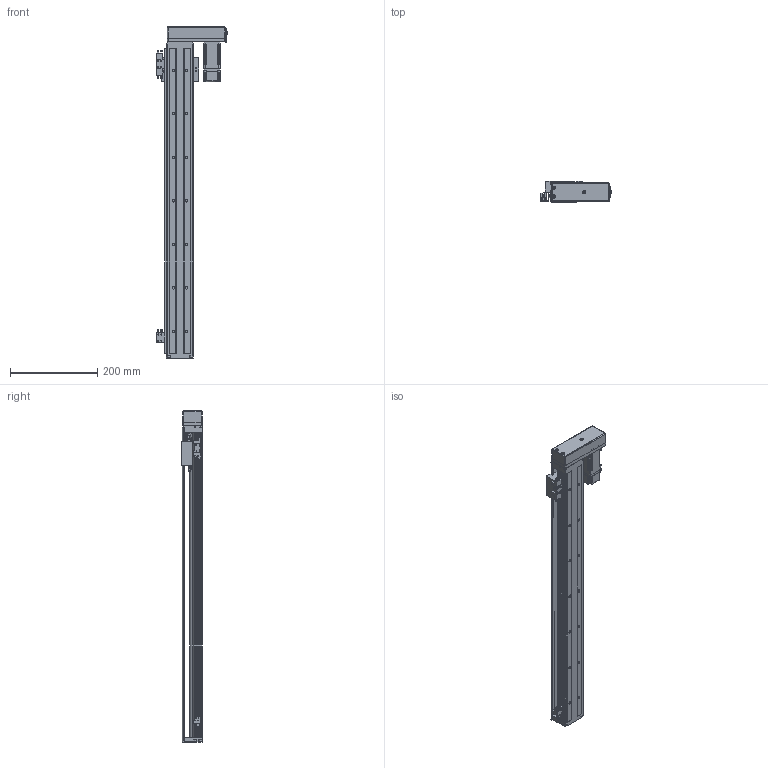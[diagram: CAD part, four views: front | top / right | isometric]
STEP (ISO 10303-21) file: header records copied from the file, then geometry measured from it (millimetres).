
FILE_DESCRIPTION (( 'STEP AP214' ), '1' );
FILE_NAME ('SFKK60-700A1-HL0C.STEP', '2023-02-17T02:06:09', ( '微软用户' ), ( '微软中国' ), 'SwSTEP 2.0', 'SolidWorks 2018', '' );
FILE_SCHEMA (( 'AUTOMOTIVE_DESIGN' ));
Length unit declared in the file: millimetre
Products named in the file (12): SFKK60-LR 憤癹寢耋_700; 带盖挡光片：KK-60-S2-D1; SFKK60-H0-P10侂狟100W耜蚾; SFKK-60-CU_700; 蚐郲; SFKK60-A1-C; SFKK60-700A1-HL0C; 极限轨道与开关固定座组合_700; 开关固定座：KK-674S2-F; hexagon socket countersunk head screws gb_GB_FASTENER_SCREWS_HSCHS M3X8-N; SX674嫖萇羲壽; SFKK60-H0_700
Assembly tree (17 placements, depth 3):
  SFKK60-700A1-HL0C
    SFKK60-H0_700
    SFKK60-A1-C
    蚐郲
    SFKK-60-CU_700
    hexagon socket countersunk head screws gb_GB_FASTENER_SCREWS_HSCHS M3X8-N  x4
    带盖挡光片：KK-60-S2-D1
    极限轨道与开关固定座组合_700
      SFKK60-LR 憤癹寢耋_700
      开关固定座：KK-674S2-F  x2
    SX674嫖萇羲壽  x3
    SFKK60-H0-P10侂狟100W耜蚾
Bounding box: 162.2 x 48 x 762.7 mm (x, y, z)
Volume: 825365.5 mm3; surface area: 453480 mm2
Topology: 40 solids, 69 shells, 4353 faces, 10917 edges, 6744 vertices
Faces by surface type: cylinder 1708, plane 1510, cone 927, torus 91, bspline 91, sphere 26
Entity records: 171716 total; most frequent: CARTESIAN_POINT 30669, DIRECTION 21729, ORIENTED_EDGE 20502, EDGE_CURVE 10313, AXIS2_PLACEMENT_3D 8081, VERTEX_POINT 6447, LINE 5567, VECTOR 5567
